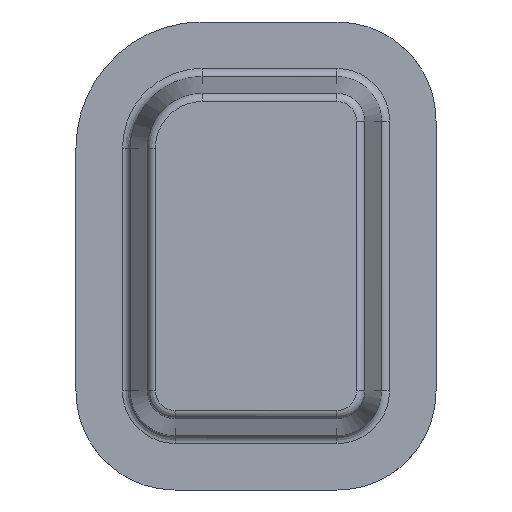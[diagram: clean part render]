
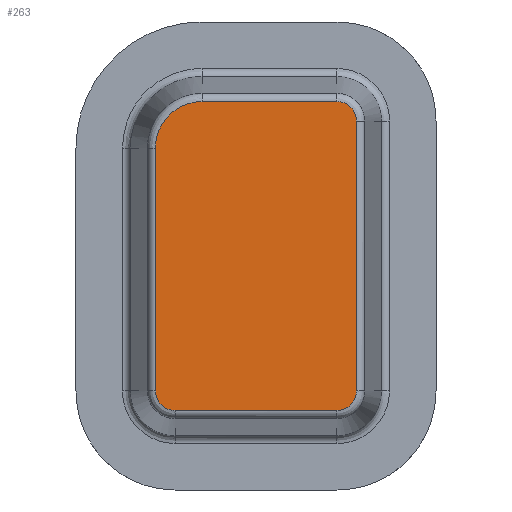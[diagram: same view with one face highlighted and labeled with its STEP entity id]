
A CAD part, front view. The second image highlights one B-rep face of the part: STEP entity #263.
In plain terms, the highlighted planar face has unit normal (0, -1, 0).
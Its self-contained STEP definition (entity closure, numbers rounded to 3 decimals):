
#144=CARTESIAN_POINT('Axis2P3D Location',(41.08,0.,58.92)) ;
#149=CARTESIAN_POINT('Line Origine',(2.749,0.,55.)) ;
#153=CARTESIAN_POINT('Vertex',(2.749,0.,100.)) ;
#155=CARTESIAN_POINT('Vertex',(2.749,0.,10.)) ;
#159=CARTESIAN_POINT('Control Point',(2.749,0.,10.)) ;
#160=CARTESIAN_POINT('Control Point',(2.749,0.,9.039)) ;
#161=CARTESIAN_POINT('Control Point',(2.908,0.,8.077)) ;
#162=CARTESIAN_POINT('Control Point',(3.227,0.,7.153)) ;
#163=CARTESIAN_POINT('Control Point',(4.157,0.,5.443)) ;
#164=CARTESIAN_POINT('Control Point',(5.588,0.,4.125)) ;
#165=CARTESIAN_POINT('Control Point',(6.407,0.,3.591)) ;
#166=CARTESIAN_POINT('Control Point',(7.616,0.,3.065)) ;
#167=CARTESIAN_POINT('Control Point',(8.897,0.,2.821)) ;
#168=CARTESIAN_POINT('Control Point',(9.236,0.,2.777)) ;
#169=CARTESIAN_POINT('Control Point',(9.593,0.,2.752)) ;
#170=CARTESIAN_POINT('Control Point',(9.95,0.,2.749)) ;
#171=CARTESIAN_POINT('Control Point',(9.967,0.,2.749)) ;
#172=CARTESIAN_POINT('Control Point',(9.983,0.,2.749)) ;
#173=CARTESIAN_POINT('Control Point',(10.,0.,2.749)) ;
#174=CARTESIAN_POINT('Vertex',(10.,0.,2.749)) ;
#177=CARTESIAN_POINT('Line Origine',(40.,0.,2.749)) ;
#181=CARTESIAN_POINT('Vertex',(70.,0.,2.749)) ;
#185=CARTESIAN_POINT('Control Point',(70.,0.,2.749)) ;
#186=CARTESIAN_POINT('Control Point',(70.961,0.,2.749)) ;
#187=CARTESIAN_POINT('Control Point',(71.923,0.,2.908)) ;
#188=CARTESIAN_POINT('Control Point',(72.847,0.,3.227)) ;
#189=CARTESIAN_POINT('Control Point',(74.557,0.,4.157)) ;
#190=CARTESIAN_POINT('Control Point',(75.875,0.,5.588)) ;
#191=CARTESIAN_POINT('Control Point',(76.409,0.,6.407)) ;
#192=CARTESIAN_POINT('Control Point',(76.935,0.,7.616)) ;
#193=CARTESIAN_POINT('Control Point',(77.179,0.,8.897)) ;
#194=CARTESIAN_POINT('Control Point',(77.223,0.,9.236)) ;
#195=CARTESIAN_POINT('Control Point',(77.248,0.,9.593)) ;
#196=CARTESIAN_POINT('Control Point',(77.251,0.,9.95)) ;
#197=CARTESIAN_POINT('Control Point',(77.251,0.,9.967)) ;
#198=CARTESIAN_POINT('Control Point',(77.251,0.,9.983)) ;
#199=CARTESIAN_POINT('Control Point',(77.251,0.,10.)) ;
#200=CARTESIAN_POINT('Vertex',(77.251,0.,10.)) ;
#203=CARTESIAN_POINT('Line Origine',(77.251,0.,60.)) ;
#207=CARTESIAN_POINT('Vertex',(77.251,0.,110.)) ;
#211=CARTESIAN_POINT('Control Point',(77.251,0.,110.)) ;
#212=CARTESIAN_POINT('Control Point',(77.251,0.,110.961)) ;
#213=CARTESIAN_POINT('Control Point',(77.092,0.,111.923)) ;
#214=CARTESIAN_POINT('Control Point',(76.773,0.,112.847)) ;
#215=CARTESIAN_POINT('Control Point',(75.843,0.,114.557)) ;
#216=CARTESIAN_POINT('Control Point',(74.412,0.,115.875)) ;
#217=CARTESIAN_POINT('Control Point',(73.593,0.,116.409)) ;
#218=CARTESIAN_POINT('Control Point',(72.384,0.,116.935)) ;
#219=CARTESIAN_POINT('Control Point',(71.103,0.,117.179)) ;
#220=CARTESIAN_POINT('Control Point',(70.764,0.,117.223)) ;
#221=CARTESIAN_POINT('Control Point',(70.407,0.,117.248)) ;
#222=CARTESIAN_POINT('Control Point',(70.05,0.,117.251)) ;
#223=CARTESIAN_POINT('Control Point',(70.033,0.,117.251)) ;
#224=CARTESIAN_POINT('Control Point',(70.017,0.,117.251)) ;
#225=CARTESIAN_POINT('Control Point',(70.,0.,117.251)) ;
#226=CARTESIAN_POINT('Vertex',(70.,0.,117.251)) ;
#229=CARTESIAN_POINT('Line Origine',(45.,0.,117.251)) ;
#233=CARTESIAN_POINT('Vertex',(20.,0.,117.251)) ;
#237=CARTESIAN_POINT('Control Point',(20.,0.,117.251)) ;
#238=CARTESIAN_POINT('Control Point',(18.077,0.,117.251)) ;
#239=CARTESIAN_POINT('Control Point',(16.154,0.,116.983)) ;
#240=CARTESIAN_POINT('Control Point',(14.282,0.,116.447)) ;
#241=CARTESIAN_POINT('Control Point',(10.736,0.,114.869)) ;
#242=CARTESIAN_POINT('Control Point',(7.758,0.,112.383)) ;
#243=CARTESIAN_POINT('Control Point',(6.452,0.,110.939)) ;
#244=CARTESIAN_POINT('Control Point',(4.493,0.,108.046)) ;
#245=CARTESIAN_POINT('Control Point',(3.314,0.,104.769)) ;
#246=CARTESIAN_POINT('Control Point',(2.954,0.,103.259)) ;
#247=CARTESIAN_POINT('Control Point',(2.762,0.,101.686)) ;
#248=CARTESIAN_POINT('Control Point',(2.749,0.,100.11)) ;
#249=CARTESIAN_POINT('Control Point',(2.749,0.,100.073)) ;
#250=CARTESIAN_POINT('Control Point',(2.749,0.,100.037)) ;
#251=CARTESIAN_POINT('Control Point',(2.749,0.,100.)) ;
#145=DIRECTION('Axis2P3D Direction',(0.,-1.,0.)) ;
#146=DIRECTION('Axis2P3D XDirection',(0.069,0.,0.998)) ;
#150=DIRECTION('Vector Direction',(0.,0.,1.)) ;
#178=DIRECTION('Vector Direction',(1.,0.,0.)) ;
#204=DIRECTION('Vector Direction',(0.,0.,1.)) ;
#230=DIRECTION('Vector Direction',(-1.,0.,0.)) ;
#147=AXIS2_PLACEMENT_3D('Plane Axis2P3D',#144,#145,#146) ;
#254=ORIENTED_EDGE('',*,*,#157,.T.) ;
#255=ORIENTED_EDGE('',*,*,#176,.T.) ;
#256=ORIENTED_EDGE('',*,*,#183,.T.) ;
#257=ORIENTED_EDGE('',*,*,#202,.T.) ;
#258=ORIENTED_EDGE('',*,*,#209,.T.) ;
#259=ORIENTED_EDGE('',*,*,#228,.T.) ;
#260=ORIENTED_EDGE('',*,*,#235,.T.) ;
#261=ORIENTED_EDGE('',*,*,#252,.T.) ;
#151=VECTOR('Line Direction',#150,1.) ;
#179=VECTOR('Line Direction',#178,1.) ;
#205=VECTOR('Line Direction',#204,1.) ;
#231=VECTOR('Line Direction',#230,1.) ;
#263=ADVANCED_FACE('base',(#262),#148,.T.) ;
#158=B_SPLINE_CURVE_WITH_KNOTS('',5,(#159,#160,#161,#162,#163,#164,#165,#166,#167,#168,#169,#170,#171,#172,#173),.UNSPECIFIED.,.F.,.U.,(6,3,3,3,6),(29.686,40.002,50.324,53.981,54.158),.UNSPECIFIED.) ;
#184=B_SPLINE_CURVE_WITH_KNOTS('',5,(#185,#186,#187,#188,#189,#190,#191,#192,#193,#194,#195,#196,#197,#198,#199),.UNSPECIFIED.,.F.,.U.,(6,3,3,3,6),(29.686,40.002,50.324,53.98,54.158),.UNSPECIFIED.) ;
#210=B_SPLINE_CURVE_WITH_KNOTS('',5,(#211,#212,#213,#214,#215,#216,#217,#218,#219,#220,#221,#222,#223,#224,#225),.UNSPECIFIED.,.F.,.U.,(6,3,3,3,6),(29.686,40.003,50.324,53.981,54.159),.UNSPECIFIED.) ;
#236=B_SPLINE_CURVE_WITH_KNOTS('',5,(#237,#238,#239,#240,#241,#242,#243,#244,#245,#246,#247,#248,#249,#250,#251),.UNSPECIFIED.,.F.,.U.,(6,3,3,3,6),(41.699,57.991,74.302,87.342,87.652),.UNSPECIFIED.) ;
#157=EDGE_CURVE('',#154,#156,#152,.F.) ;
#176=EDGE_CURVE('',#156,#175,#158,.T.) ;
#183=EDGE_CURVE('',#175,#182,#180,.T.) ;
#202=EDGE_CURVE('',#182,#201,#184,.T.) ;
#209=EDGE_CURVE('',#201,#208,#206,.T.) ;
#228=EDGE_CURVE('',#208,#227,#210,.T.) ;
#235=EDGE_CURVE('',#227,#234,#232,.T.) ;
#252=EDGE_CURVE('',#234,#154,#236,.T.) ;
#253=EDGE_LOOP('',(#254,#255,#256,#257,#258,#259,#260,#261)) ;
#262=FACE_OUTER_BOUND('',#253,.T.) ;
#152=LINE('Line',#149,#151) ;
#180=LINE('Line',#177,#179) ;
#206=LINE('Line',#203,#205) ;
#232=LINE('Line',#229,#231) ;
#148=PLANE('',#147) ;
#154=VERTEX_POINT('',#153) ;
#156=VERTEX_POINT('',#155) ;
#175=VERTEX_POINT('',#174) ;
#182=VERTEX_POINT('',#181) ;
#201=VERTEX_POINT('',#200) ;
#208=VERTEX_POINT('',#207) ;
#227=VERTEX_POINT('',#226) ;
#234=VERTEX_POINT('',#233) ;
